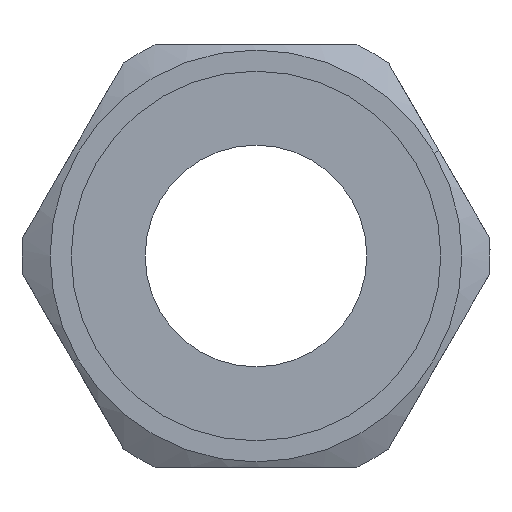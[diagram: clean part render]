
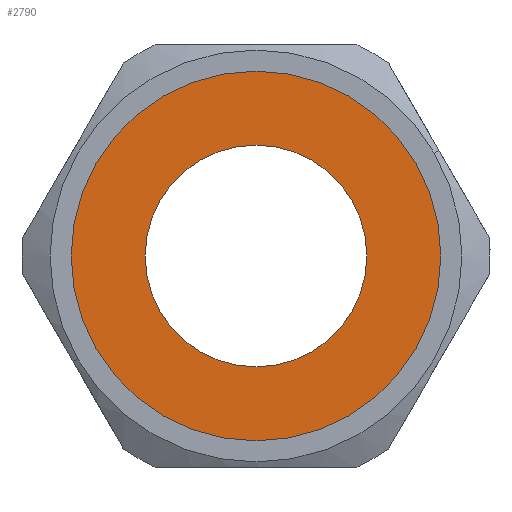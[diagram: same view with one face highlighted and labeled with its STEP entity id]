
A CAD part, front view. The second image highlights one B-rep face of the part: STEP entity #2790.
In plain terms, the highlighted planar face has unit normal (0, -1, 0).
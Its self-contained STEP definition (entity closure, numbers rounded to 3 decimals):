
#2440=CARTESIAN_POINT('',(-105.005,35.74,
-0.588));
#2450=DIRECTION('',(0.,-1.,0.));
#2460=DIRECTION('',(1.,0.,0.));
#2470=AXIS2_PLACEMENT_3D('',#2440,#2450,#2460);
#2480=PLANE('',#2470);
#2490=CARTESIAN_POINT('',(-98.071,35.74,0.));
#2500=DIRECTION('',(0.,-1.,0.));
#2510=DIRECTION('',(-1.,0.,0.));
#2520=AXIS2_PLACEMENT_3D('',#2490,#2500,#2510);
#2530=CIRCLE('',#2520,6.3);
#2540=CARTESIAN_POINT('',(-104.371,35.74,0.));
#2550=VERTEX_POINT('',#2540);
#2560=CARTESIAN_POINT('',(-91.771,35.74,
0.));
#2570=VERTEX_POINT('',#2560);
#2580=EDGE_CURVE('',#2550,#2570,#2530,.T.);
#2590=ORIENTED_EDGE('',*,*,#2580,.F.);
#2600=EDGE_CURVE('',#2570,#2550,#2530,.T.);
#2610=ORIENTED_EDGE('',*,*,#2600,.F.);
#2620=EDGE_LOOP('',(#2610,#2590));
#2630=FACE_BOUND('',#2620,.T.);
#2640=CARTESIAN_POINT('',(-98.071,35.74,
0.));
#2650=DIRECTION('',(0.,-1.,0.));
#2660=DIRECTION('',(-0.5,0.,-0.866));
#2670=AXIS2_PLACEMENT_3D('',#2640,#2650,#2660);
#2680=CIRCLE('',#2670,10.5);
#2690=CARTESIAN_POINT('',(-103.321,35.74,
-9.093));
#2700=VERTEX_POINT('',#2690);
#2710=CARTESIAN_POINT('',(-92.821,35.74,
9.093));
#2720=VERTEX_POINT('',#2710);
#2730=EDGE_CURVE('',#2700,#2720,#2680,.T.);
#2740=ORIENTED_EDGE('',*,*,#2730,.T.);
#2750=EDGE_CURVE('',#2720,#2700,#2680,.T.);
#2760=ORIENTED_EDGE('',*,*,#2750,.T.);
#2770=EDGE_LOOP('',(#2760,#2740));
#2780=FACE_OUTER_BOUND('',#2770,.T.);
#2790=ADVANCED_FACE('',(#2630,#2780),#2480,.T.);
